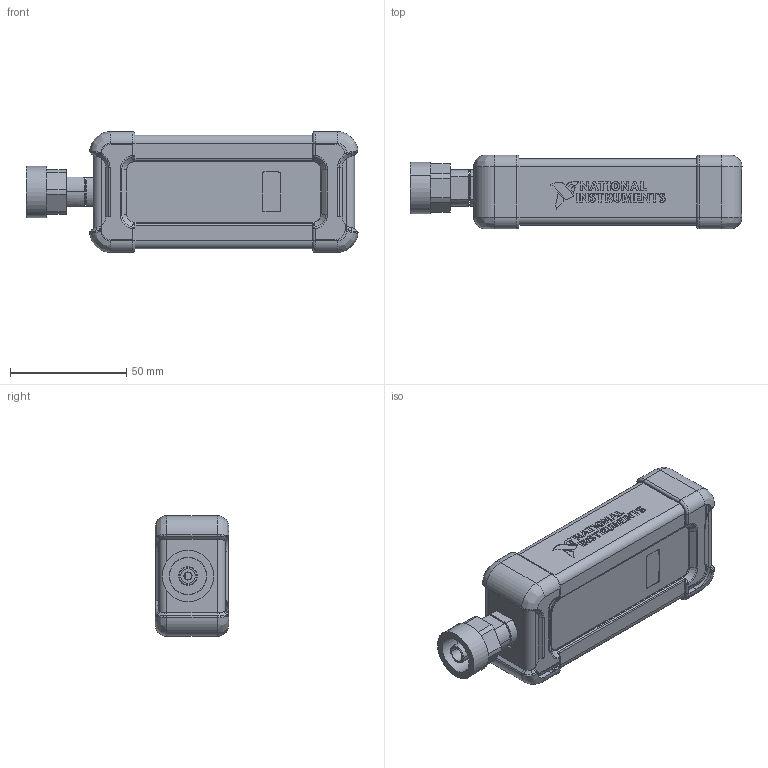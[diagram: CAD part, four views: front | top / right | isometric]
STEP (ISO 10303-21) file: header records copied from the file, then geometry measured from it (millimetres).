
FILE_DESCRIPTION((''),'2;1');
FILE_NAME('CU_ASSY_USB-568X_ASM','2018-03-06T',('jjorden'),(''),'CREO PARAMETRIC BY PTC INC, 2015380','CREO PARAMETRIC BY PTC INC, 2015380','');
FILE_SCHEMA(('CONFIG_CONTROL_DESIGN'));
Products named in the file (3): BODY_POWER-METER_568X; BEZEL_POWER-METER_568X; CU_ASSY_USB-568X_ASM
Assembly tree (2 placements, depth 2):
  CU_ASSY_USB-568X_ASM
    BODY_POWER-METER_568X
    BEZEL_POWER-METER_568X
Bounding box: 142.87 x 31.7 x 52 mm (x, y, z)
Volume: 59956.6 mm3; surface area: 79792.5 mm2
Topology: 1 solids, 8 shells, 2088 faces, 5825 edges, 3799 vertices
Faces by surface type: plane 1113, cylinder 586, extrusion 152, cone 94, bspline 79, torus 56, sphere 8
Entity records: 76206 total; most frequent: CARTESIAN_POINT 22879, ORIENTED_EDGE 11480, DIRECTION 10435, EDGE_CURVE 5794, VERTEX_POINT 3797, VECTOR 3745, LINE 3593, AXIS2_PLACEMENT_3D 3345
